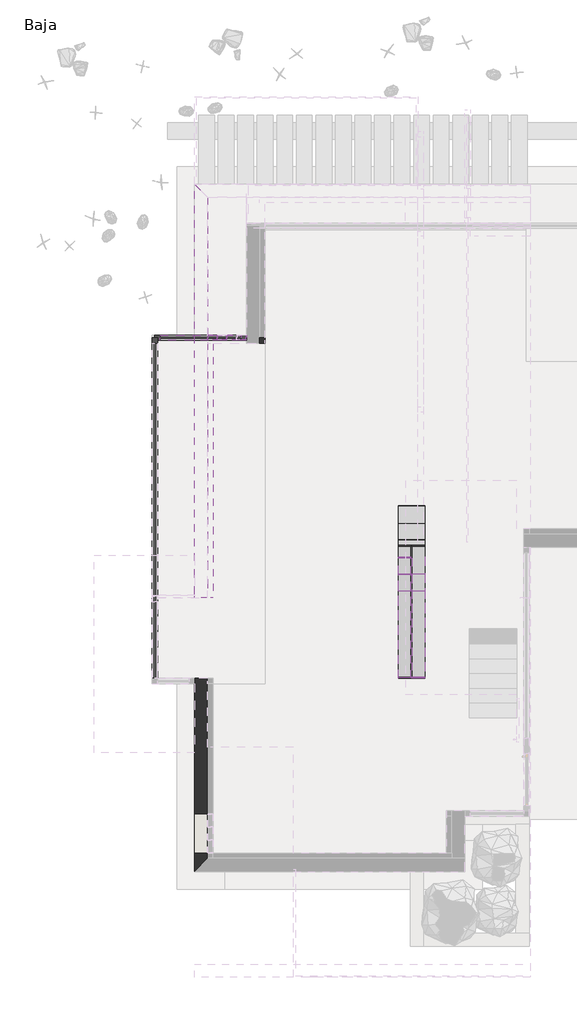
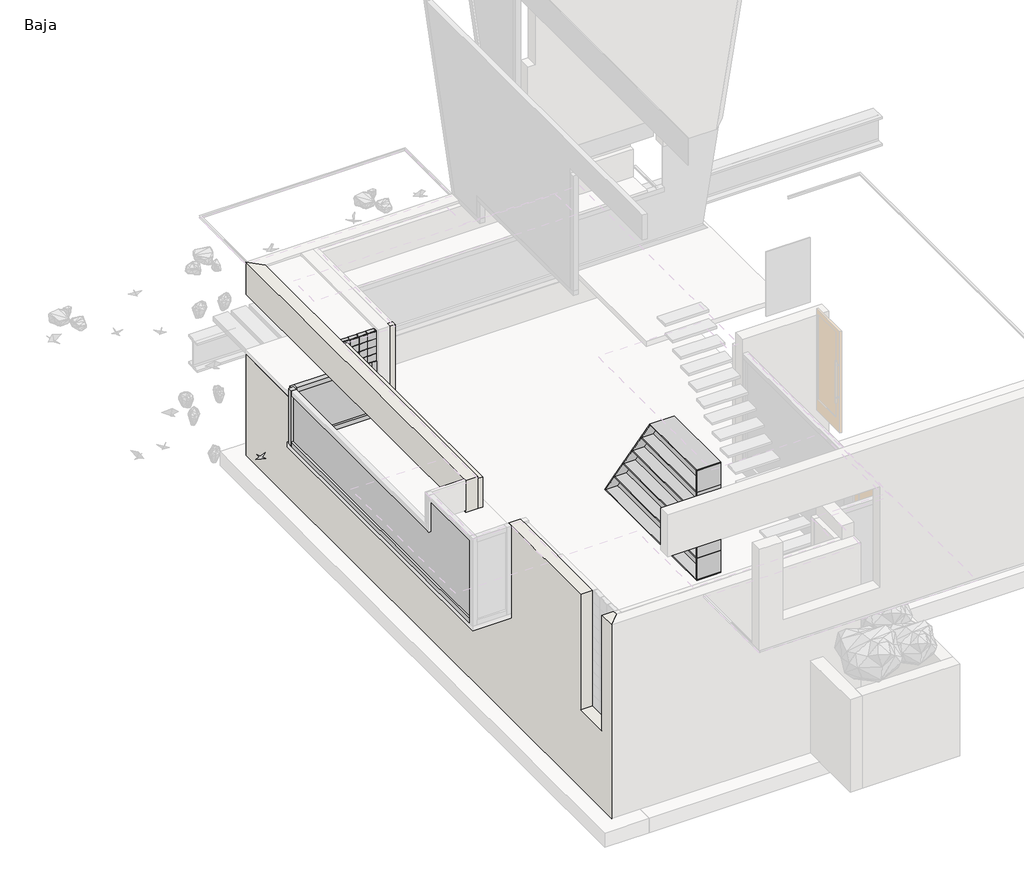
# One storey, part 2 of 7: 90 members, 23 plates, 4 walls.
"""IFC4 building model written with IfcOpenShell, lengths in millimetres."""

from ifc_helpers import new_model, si_unit, frame, origin, place, context, project, spatial, polyline, outline, extrude, faceted_brep, transform, mapped, element, save
from components import montante_rectangular_1abb0f4d, montante_rectangular_656bb1b0, montante_rectangular_f59f1d85, montante_rectangular_22364236, montante_rectangular_3d630c58, montante_rectangular_142802ca, montante_rectangular_cf6d9dcd, montante_rectangular_e4d02805, montante_rectangular_b110d746, montante_rectangular_e5db3b32, montante_rectangular_8bd0d971, montante_rectangular_43f281ba, montante_rectangular_47f0ccf8, montante_rectangular_ee07dd83, montante_rectangular_0c0e8d66, montante_rectangular_777e8895, montante_rectangular_4684fdaf, montante_rectangular_06d679b1, montante_rectangular_b5605255, montante_rectangular_2129d922, montante_rectangular_849fd185, montante_rectangular_d17c8d82, montante_rectangular_a98bdce8, montante_rectangular_35cfc2e4, montante_rectangular_3e73b5a5, montante_rectangular_cd6e0c02, montante_rectangular_montante_rectangular_10_x_10_cm_00349207, montante_rectangular_montante_rectangular_10_x_10_cm_79bb80e4, montante_rectangular_montante_rectangular_10_x_10_cm_fe9984d1, montante_rectangular_montante_rectangular_10_x_10_cm_3d635e15, montante_rectangular_montante_rectangular_10_x_10_cm_fdc269ba, panel_de_sistema_1168f021, panel_de_sistema_f3d9d39c, panel_de_sistema_20889c13, panel_de_sistema_fa78a8eb, panel_de_sistema_acristalado_9beb0c57, panel_de_sistema_acristalado_709cfd88, panel_de_sistema_acristalado_dcfe0e04, panel_de_sistema_acristalado_019df9a7, panel_de_sistema_acristalado_3d5bf477, panel_de_sistema_acristalado_1b2d553e, panel_de_sistema_acristalado_a5d02b9b

model = new_model("IFC4")

# Units and contexts
model_context = context("Model", 3, world=origin())
ifc_project = project(units=[si_unit("LENGTHUNIT", "METRE", prefix="MILLI")], contexts=[model_context])

# Site, building, storey
site = spatial("IfcSite", under=ifc_project)
building = spatial("IfcBuilding", under=site)
storey = spatial("IfcBuildingStorey", under=building, Name="Baja", Elevation=0.0)

# Members
placement = place(None, origin())
montante_rectangular_shape = montante_rectangular_1abb0f4d(model_context)
element("IfcMember", 1, ObjectType="Montante rectangular : Junta de paves", at=placement, inside=storey, context=model_context, shape_type="MappedRepresentation", body=[
    mapped(montante_rectangular_shape, transform((-3260.1061235, -293.1853621, 2650.0), x_axis=(0.0, 0.0, 1.0), y_axis=(0.0, -1.0, 0.0), z_axis=(1.0, 0.0, 0.0))),
])
element("IfcMember", 2, ObjectType="Montante rectangular : Junta de paves", at=placement, inside=storey, context=model_context, shape_type="MappedRepresentation", body=[
    mapped(montante_rectangular_shape, transform((-3803.3216659, -293.1853621, 2650.0), x_axis=(0.0, 0.0, 1.0), y_axis=(0.0, -1.0, 0.0), z_axis=(1.0, 0.0, 0.0))),
])
montante_rectangular_2_shape = montante_rectangular_656bb1b0(model_context)
element("IfcMember", 3, ObjectType="Montante rectangular : Junta de paves", at=placement, inside=storey, context=model_context, shape_type="MappedRepresentation", body=[
    mapped(montante_rectangular_2_shape, transform((-3620.5831518, -293.1853621, 2650.0), x_axis=(0.0, 0.0, 1.0), y_axis=(0.0, -1.0, 0.0), z_axis=(1.0, 0.0, 0.0))),
])
element("IfcMember", 4, ObjectType="Montante rectangular : Junta de paves", at=placement, inside=storey, context=model_context, shape_type="MappedRepresentation", body=[
    mapped(montante_rectangular_2_shape, transform((-3437.8446376, -293.1853621, 2650.0), x_axis=(0.0, 0.0, 1.0), y_axis=(0.0, -1.0, 0.0), z_axis=(1.0, 0.0, 0.0))),
])
montante_rectangular_3_shape = montante_rectangular_f59f1d85(model_context)
element("IfcMember", 5, ObjectType="Montante rectangular : Junta de paves", at=placement, inside=storey, context=model_context, shape_type="MappedRepresentation", body=[
    mapped(montante_rectangular_3_shape, transform((-3971.0601801, -293.1853621, 2000.0), x_axis=(0.0, 0.0, -1.0), y_axis=(0.0, -1.0, 0.0), z_axis=(-1.0, 0.0, 0.0))),
])
element("IfcMember", 6, ObjectType="Montante rectangular : Junta de paves", at=placement, inside=storey, context=model_context, shape_type="MappedRepresentation", body=[
    mapped(montante_rectangular_3_shape, transform((-3427.8446376, -293.1853621, 2000.0), x_axis=(0.0, 0.0, -1.0), y_axis=(0.0, -1.0, 0.0), z_axis=(-1.0, 0.0, 0.0))),
])
montante_rectangular_4_shape = montante_rectangular_22364236(model_context)
element("IfcMember", 7, ObjectType="Montante rectangular : Junta de paves", at=placement, inside=storey, context=model_context, shape_type="MappedRepresentation", body=[
    mapped(montante_rectangular_4_shape, transform((-3793.3216659, -293.1853621, 2000.0), x_axis=(0.0, 0.0, -1.0), y_axis=(0.0, -1.0, 0.0), z_axis=(-1.0, 0.0, 0.0))),
])
element("IfcMember", 8, ObjectType="Montante rectangular : Junta de paves", at=placement, inside=storey, context=model_context, shape_type="MappedRepresentation", body=[
    mapped(montante_rectangular_4_shape, transform((-3610.5831518, -293.1853621, 2000.0), x_axis=(0.0, 0.0, -1.0), y_axis=(0.0, -1.0, 0.0), z_axis=(-1.0, 0.0, 0.0))),
])
montante_rectangular_5_shape = montante_rectangular_3d630c58(model_context)
element("IfcMember", 9, ObjectType="Montante rectangular : Junta de paves", at=placement, inside=storey, context=model_context, shape_type="MappedRepresentation", body=[
    mapped(montante_rectangular_5_shape, transform((-3803.3216659, -293.1853621, 2162.5), x_axis=(0.0, 0.0, 1.0), y_axis=(0.0, -1.0, 0.0), z_axis=(1.0, 0.0, 0.0))),
])
element("IfcMember", 10, ObjectType="Montante rectangular : Junta de paves", at=placement, inside=storey, context=model_context, shape_type="MappedRepresentation", body=[
    mapped(montante_rectangular_5_shape, transform((-3260.1061235, -293.1853621, 2162.5), x_axis=(0.0, 0.0, 1.0), y_axis=(0.0, -1.0, 0.0), z_axis=(1.0, 0.0, 0.0))),
])
element("IfcMember", 11, ObjectType="Montante rectangular : Junta de paves", at=placement, inside=storey, context=model_context, shape_type="MappedRepresentation", body=[
    mapped(montante_rectangular_5_shape, transform((-3803.3216659, -293.1853621, 2325.0), x_axis=(0.0, 0.0, 1.0), y_axis=(0.0, -1.0, 0.0), z_axis=(1.0, 0.0, 0.0))),
])
element("IfcMember", 12, ObjectType="Montante rectangular : Junta de paves", at=placement, inside=storey, context=model_context, shape_type="MappedRepresentation", body=[
    mapped(montante_rectangular_5_shape, transform((-3260.1061235, -293.1853621, 2325.0), x_axis=(0.0, 0.0, 1.0), y_axis=(0.0, -1.0, 0.0), z_axis=(1.0, 0.0, 0.0))),
])
element("IfcMember", 13, ObjectType="Montante rectangular : Junta de paves", at=placement, inside=storey, context=model_context, shape_type="MappedRepresentation", body=[
    mapped(montante_rectangular_5_shape, transform((-3803.3216659, -293.1853621, 2487.5), x_axis=(0.0, 0.0, 1.0), y_axis=(0.0, -1.0, 0.0), z_axis=(1.0, 0.0, 0.0))),
])
element("IfcMember", 14, ObjectType="Montante rectangular : Junta de paves", at=placement, inside=storey, context=model_context, shape_type="MappedRepresentation", body=[
    mapped(montante_rectangular_5_shape, transform((-3260.1061235, -293.1853621, 2487.5), x_axis=(0.0, 0.0, 1.0), y_axis=(0.0, -1.0, 0.0), z_axis=(1.0, 0.0, 0.0))),
])
montante_rectangular_6_shape = montante_rectangular_142802ca(model_context)
element("IfcMember", 15, ObjectType="Montante rectangular : Junta de paves", at=placement, inside=storey, context=model_context, shape_type="MappedRepresentation", body=[
    mapped(montante_rectangular_6_shape, transform((-3620.5831518, -293.1853621, 2162.5), x_axis=(0.0, 0.0, 1.0), y_axis=(0.0, -1.0, 0.0), z_axis=(1.0, 0.0, 0.0))),
])
element("IfcMember", 16, ObjectType="Montante rectangular : Junta de paves", at=placement, inside=storey, context=model_context, shape_type="MappedRepresentation", body=[
    mapped(montante_rectangular_6_shape, transform((-3437.8446376, -293.1853621, 2162.5), x_axis=(0.0, 0.0, 1.0), y_axis=(0.0, -1.0, 0.0), z_axis=(1.0, 0.0, 0.0))),
])
element("IfcMember", 17, ObjectType="Montante rectangular : Junta de paves", at=placement, inside=storey, context=model_context, shape_type="MappedRepresentation", body=[
    mapped(montante_rectangular_6_shape, transform((-3620.5831518, -293.1853621, 2325.0), x_axis=(0.0, 0.0, 1.0), y_axis=(0.0, -1.0, 0.0), z_axis=(1.0, 0.0, 0.0))),
])
element("IfcMember", 18, ObjectType="Montante rectangular : Junta de paves", at=placement, inside=storey, context=model_context, shape_type="MappedRepresentation", body=[
    mapped(montante_rectangular_6_shape, transform((-3437.8446376, -293.1853621, 2325.0), x_axis=(0.0, 0.0, 1.0), y_axis=(0.0, -1.0, 0.0), z_axis=(1.0, 0.0, 0.0))),
])
element("IfcMember", 19, ObjectType="Montante rectangular : Junta de paves", at=placement, inside=storey, context=model_context, shape_type="MappedRepresentation", body=[
    mapped(montante_rectangular_6_shape, transform((-3620.5831518, -293.1853621, 2487.5), x_axis=(0.0, 0.0, 1.0), y_axis=(0.0, -1.0, 0.0), z_axis=(1.0, 0.0, 0.0))),
])
element("IfcMember", 20, ObjectType="Montante rectangular : Junta de paves", at=placement, inside=storey, context=model_context, shape_type="MappedRepresentation", body=[
    mapped(montante_rectangular_6_shape, transform((-3437.8446376, -293.1853621, 2487.5), x_axis=(0.0, 0.0, 1.0), y_axis=(0.0, -1.0, 0.0), z_axis=(1.0, 0.0, 0.0))),
])
montante_rectangular_7_shape = montante_rectangular_cf6d9dcd(model_context)
element("IfcMember", 21, ObjectType="Montante rectangular : Junta de paves", at=placement, inside=storey, context=model_context, shape_type="MappedRepresentation", body=[
    mapped(montante_rectangular_7_shape, transform((-3798.3216659, -293.1853621, 2000.0), x_axis=(1.0, 0.0, 0.0), y_axis=(0.0, -1.0, 0.0), z_axis=(0.0, 0.0, -1.0))),
])
element("IfcMember", 22, ObjectType="Montante rectangular : Junta de paves", at=placement, inside=storey, context=model_context, shape_type="MappedRepresentation", body=[
    mapped(montante_rectangular_7_shape, transform((-3615.5831518, -293.1853621, 2000.0), x_axis=(1.0, 0.0, 0.0), y_axis=(0.0, -1.0, 0.0), z_axis=(0.0, 0.0, -1.0))),
])
element("IfcMember", 23, ObjectType="Montante rectangular : Junta de paves", at=placement, inside=storey, context=model_context, shape_type="MappedRepresentation", body=[
    mapped(montante_rectangular_7_shape, transform((-3432.8446376, -293.1853621, 2000.0), x_axis=(1.0, 0.0, 0.0), y_axis=(0.0, -1.0, 0.0), z_axis=(0.0, 0.0, -1.0))),
])
element("IfcMember", 24, ObjectType="Montante rectangular : Junta de paves", at=placement, inside=storey, context=model_context, shape_type="MappedRepresentation", body=[
    mapped(montante_rectangular_7_shape, transform((-3798.3216659, -293.1853621, 2162.5), x_axis=(1.0, 0.0, 0.0), y_axis=(0.0, -1.0, 0.0), z_axis=(0.0, 0.0, -1.0))),
])
element("IfcMember", 25, ObjectType="Montante rectangular : Junta de paves", at=placement, inside=storey, context=model_context, shape_type="MappedRepresentation", body=[
    mapped(montante_rectangular_7_shape, transform((-3615.5831518, -293.1853621, 2162.5), x_axis=(1.0, 0.0, 0.0), y_axis=(0.0, -1.0, 0.0), z_axis=(0.0, 0.0, -1.0))),
])
element("IfcMember", 26, ObjectType="Montante rectangular : Junta de paves", at=placement, inside=storey, context=model_context, shape_type="MappedRepresentation", body=[
    mapped(montante_rectangular_7_shape, transform((-3432.8446376, -293.1853621, 2162.5), x_axis=(1.0, 0.0, 0.0), y_axis=(0.0, -1.0, 0.0), z_axis=(0.0, 0.0, -1.0))),
])
element("IfcMember", 27, ObjectType="Montante rectangular : Junta de paves", at=placement, inside=storey, context=model_context, shape_type="MappedRepresentation", body=[
    mapped(montante_rectangular_7_shape, transform((-3798.3216659, -293.1853621, 2325.0), x_axis=(1.0, 0.0, 0.0), y_axis=(0.0, -1.0, 0.0), z_axis=(0.0, 0.0, -1.0))),
])
element("IfcMember", 28, ObjectType="Montante rectangular : Junta de paves", at=placement, inside=storey, context=model_context, shape_type="MappedRepresentation", body=[
    mapped(montante_rectangular_7_shape, transform((-3615.5831518, -293.1853621, 2325.0), x_axis=(1.0, 0.0, 0.0), y_axis=(0.0, -1.0, 0.0), z_axis=(0.0, 0.0, -1.0))),
])
element("IfcMember", 29, ObjectType="Montante rectangular : Junta de paves", at=placement, inside=storey, context=model_context, shape_type="MappedRepresentation", body=[
    mapped(montante_rectangular_7_shape, transform((-3432.8446376, -293.1853621, 2325.0), x_axis=(1.0, 0.0, 0.0), y_axis=(0.0, -1.0, 0.0), z_axis=(0.0, 0.0, -1.0))),
])
element("IfcMember", 30, ObjectType="Montante rectangular : Junta de paves", at=placement, inside=storey, context=model_context, shape_type="MappedRepresentation", body=[
    mapped(montante_rectangular_7_shape, transform((-3798.3216659, -293.1853621, 2487.5), x_axis=(1.0, 0.0, 0.0), y_axis=(0.0, -1.0, 0.0), z_axis=(0.0, 0.0, -1.0))),
])
element("IfcMember", 31, ObjectType="Montante rectangular : Junta de paves", at=placement, inside=storey, context=model_context, shape_type="MappedRepresentation", body=[
    mapped(montante_rectangular_7_shape, transform((-3615.5831518, -293.1853621, 2487.5), x_axis=(1.0, 0.0, 0.0), y_axis=(0.0, -1.0, 0.0), z_axis=(0.0, 0.0, -1.0))),
])
montante_rectangular_8_shape = montante_rectangular_e4d02805(model_context)
element("IfcMember", 32, ObjectType="Montante rectangular : Junta de paves", at=placement, inside=storey, context=model_context, shape_type="MappedRepresentation", body=[
    mapped(montante_rectangular_8_shape, transform((-3250.1061235, -293.1853621, 2000.0), x_axis=(1.0, 0.0, 0.0), y_axis=(0.0, -1.0, 0.0), z_axis=(0.0, 0.0, -1.0))),
])
element("IfcMember", 33, ObjectType="Montante rectangular : Junta de paves", at=placement, inside=storey, context=model_context, shape_type="MappedRepresentation", body=[
    mapped(montante_rectangular_8_shape, transform((-3250.1061235, -293.1853621, 2162.5), x_axis=(1.0, 0.0, 0.0), y_axis=(0.0, -1.0, 0.0), z_axis=(0.0, 0.0, -1.0))),
])
element("IfcMember", 34, ObjectType="Montante rectangular : Junta de paves", at=placement, inside=storey, context=model_context, shape_type="MappedRepresentation", body=[
    mapped(montante_rectangular_8_shape, transform((-3250.1061235, -293.1853621, 2325.0), x_axis=(1.0, 0.0, 0.0), y_axis=(0.0, -1.0, 0.0), z_axis=(0.0, 0.0, -1.0))),
])
element("IfcMember", 35, ObjectType="Montante rectangular : Junta de paves", at=placement, inside=storey, context=model_context, shape_type="MappedRepresentation", body=[
    mapped(montante_rectangular_8_shape, transform((-3250.1061235, -293.1853621, 2487.5), x_axis=(1.0, 0.0, 0.0), y_axis=(0.0, -1.0, 0.0), z_axis=(0.0, 0.0, -1.0))),
])
montante_rectangular_9_shape = montante_rectangular_b110d746(model_context)
element("IfcMember", 36, ObjectType="Montante rectangular : Junta de paves", at=placement, inside=storey, context=model_context, shape_type="MappedRepresentation", body=[
    mapped(montante_rectangular_9_shape, transform((-3981.0601801, -293.1853621, 2650.0), x_axis=(-1.0, 0.0, 0.0), y_axis=(0.0, -1.0, 0.0), z_axis=(0.0, 0.0, 1.0))),
])
element("IfcMember", 37, ObjectType="Montante rectangular : Junta de paves", at=placement, inside=storey, context=model_context, shape_type="MappedRepresentation", body=[
    mapped(montante_rectangular_9_shape, transform((-3981.0601801, -293.1853621, 2162.5), x_axis=(-1.0, 0.0, 0.0), y_axis=(0.0, -1.0, 0.0), z_axis=(0.0, 0.0, 1.0))),
])
element("IfcMember", 38, ObjectType="Montante rectangular : Junta de paves", at=placement, inside=storey, context=model_context, shape_type="MappedRepresentation", body=[
    mapped(montante_rectangular_9_shape, transform((-3981.0601801, -293.1853621, 2325.0), x_axis=(-1.0, 0.0, 0.0), y_axis=(0.0, -1.0, 0.0), z_axis=(0.0, 0.0, 1.0))),
])
element("IfcMember", 39, ObjectType="Montante rectangular : Junta de paves", at=placement, inside=storey, context=model_context, shape_type="MappedRepresentation", body=[
    mapped(montante_rectangular_9_shape, transform((-3981.0601801, -293.1853621, 2487.5), x_axis=(-1.0, 0.0, 0.0), y_axis=(0.0, -1.0, 0.0), z_axis=(0.0, 0.0, 1.0))),
])
montante_rectangular_10_shape = montante_rectangular_e5db3b32(model_context)
element("IfcMember", 40, ObjectType="Montante rectangular : CIRCLES", at=placement, inside=storey, context=model_context, shape_type="MappedRepresentation", body=[
    mapped(montante_rectangular_10_shape, transform((-125.8601801, -3800.54577, 586.0), x_axis=(0.0, 0.8309071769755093, 0.5564110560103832), y_axis=(1.0, 0.0, 0.0), z_axis=(0.0, 0.5564110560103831, -0.8309071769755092))),
])
element("IfcMember", 41, ObjectType="Montante rectangular : CIRCLES", at=placement, inside=storey, context=model_context, shape_type="MappedRepresentation", body=[
    mapped(montante_rectangular_10_shape, transform((-125.8601801, -4119.29577, 1062.0), x_axis=(0.0, 0.830907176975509, 0.5564110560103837), y_axis=(1.0, 0.0, 0.0), z_axis=(0.0, 0.5564110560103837, -0.830907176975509))),
])
element("IfcMember", 42, ObjectType="Montante rectangular : CIRCLES", at=placement, inside=storey, context=model_context, shape_type="MappedRepresentation", body=[
    mapped(montante_rectangular_10_shape, transform((-125.8601801, -4438.04577, 1538.0), x_axis=(0.0, 0.8309071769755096, 0.5564110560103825), y_axis=(1.0, 0.0, 0.0), z_axis=(0.0, 0.5564110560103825, -0.8309071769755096))),
])
montante_rectangular_11_shape = montante_rectangular_8bd0d971(model_context)
element("IfcMember", 43, ObjectType="Montante rectangular : CIRCLES", at=placement, inside=storey, context=model_context, shape_type="MappedRepresentation", body=[
    mapped(montante_rectangular_11_shape, transform((-125.8601801, -6738.9241022, 2480.0), x_axis=(0.0, -1.0, 0.0), y_axis=(1.0, 0.0, 0.0), z_axis=(0.0, 0.0, 1.0))),
])
element("IfcMember", 44, ObjectType="Montante rectangular : CIRCLES", at=placement, inside=storey, context=model_context, shape_type="MappedRepresentation", body=[
    mapped(montante_rectangular_11_shape, transform((-125.8601801, -6738.9241022, 586.0), x_axis=(0.0, -1.0, 0.0), y_axis=(1.0, 0.0, 0.0), z_axis=(0.0, 0.0, 1.0))),
])
montante_rectangular_12_shape = montante_rectangular_43f281ba(model_context)
element("IfcMember", 45, ObjectType="Montante rectangular : CIRCLES", at=placement, inside=storey, context=model_context, shape_type="MappedRepresentation", body=[
    mapped(montante_rectangular_12_shape, transform((-125.8601801, -6738.9241022, 1062.0), x_axis=(0.0, -1.0, 0.0), y_axis=(1.0, 0.0, 0.0), z_axis=(0.0, 0.0, 1.0))),
])
element("IfcMember", 46, ObjectType="Montante rectangular : CIRCLES", at=placement, inside=storey, context=model_context, shape_type="MappedRepresentation", body=[
    mapped(montante_rectangular_12_shape, transform((-125.8601801, -6738.9241022, 1538.0), x_axis=(0.0, -1.0, 0.0), y_axis=(1.0, 0.0, 0.0), z_axis=(0.0, 0.0, 1.0))),
])
element("IfcMember", 47, ObjectType="Montante rectangular : CIRCLES", at=placement, inside=storey, context=model_context, shape_type="MappedRepresentation", body=[
    mapped(montante_rectangular_12_shape, transform((-125.8601801, -6738.9241022, 2014.0), x_axis=(0.0, -1.0, 0.0), y_axis=(1.0, 0.0, 0.0), z_axis=(0.0, 0.0, 1.0))),
])
montante_rectangular_13_shape = montante_rectangular_47f0ccf8(model_context)
element("IfcMember", 48, ObjectType="Montante rectangular : CIRCLES", at=placement, inside=storey, context=model_context, shape_type="MappedRepresentation", body=[
    mapped(montante_rectangular_13_shape, transform((-125.8601801, -5082.2421985, 2500.0), x_axis=(0.0, 0.0, 1.0), y_axis=(1.0, 0.0, 0.0), z_axis=(0.0, 1.0, 0.0))),
])
montante_rectangular_14_shape = montante_rectangular_ee07dd83(model_context)
element("IfcMember", 49, ObjectType="Montante rectangular : CIRCLES", at=placement, inside=storey, context=model_context, shape_type="MappedRepresentation", body=[
    mapped(montante_rectangular_14_shape, transform((-125.8601801, -6738.9241022, 100.0), x_axis=(0.0, 0.0, -1.0), y_axis=(1.0, 0.0, 0.0), z_axis=(0.0, -1.0, 0.0))),
])
montante_rectangular_15_shape = montante_rectangular_0c0e8d66(model_context)
element("IfcMember", 50, ObjectType="Montante rectangular : CIRCLES", at=placement, inside=storey, context=model_context, shape_type="MappedRepresentation", body=[
    mapped(montante_rectangular_15_shape, transform((-125.8601801, -3475.0993414, 100.0), x_axis=(0.0, 0.8309071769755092, 0.5564110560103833), y_axis=(1.0, 0.0, 0.0), z_axis=(0.0, 0.5564110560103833, -0.8309071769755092))),
])
montante_rectangular_16_shape = montante_rectangular_777e8895(model_context)
element("IfcMember", 51, ObjectType="Montante rectangular : CIRCLES", at=placement, inside=storey, context=model_context, shape_type="MappedRepresentation", body=[
    mapped(montante_rectangular_16_shape, transform((-125.8601801, -4756.79577, 2014.0), x_axis=(0.0, 0.8309071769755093, 0.5564110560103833), y_axis=(1.0, 0.0, 0.0), z_axis=(0.0, 0.5564110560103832, -0.8309071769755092))),
])
montante_rectangular_17_shape = montante_rectangular_4684fdaf(model_context)
element("IfcMember", 52, ObjectType="Montante rectangular : CIRCLES", at=placement, inside=storey, context=model_context, shape_type="MappedRepresentation", body=[
    mapped(montante_rectangular_17_shape, transform((-125.8601801, -3800.54577, 586.0), x_axis=(0.0, 0.0, 1.0), y_axis=(1.0, 0.0, 0.0), z_axis=(0.0, 1.0, 0.0))),
])
montante_rectangular_18_shape = montante_rectangular_06d679b1(model_context)
element("IfcMember", 53, ObjectType="Montante rectangular : CIRCLES", at=placement, inside=storey, context=model_context, shape_type="MappedRepresentation", body=[
    mapped(montante_rectangular_18_shape, transform((-125.8601801, -4119.29577, 1062.0), x_axis=(0.0, 0.0, 1.0), y_axis=(1.0, 0.0, 0.0), z_axis=(0.0, 1.0, 0.0))),
])
montante_rectangular_19_shape = montante_rectangular_b5605255(model_context)
element("IfcMember", 54, ObjectType="Montante rectangular : CIRCLES", at=placement, inside=storey, context=model_context, shape_type="MappedRepresentation", body=[
    mapped(montante_rectangular_19_shape, transform((-125.8601801, -4438.04577, 1538.0), x_axis=(0.0, 0.0, 1.0), y_axis=(1.0, 0.0, 0.0), z_axis=(0.0, 1.0, 0.0))),
])
montante_rectangular_20_shape = montante_rectangular_2129d922(model_context)
element("IfcMember", 55, ObjectType="Montante rectangular : CIRCLES", at=placement, inside=storey, context=model_context, shape_type="MappedRepresentation", body=[
    mapped(montante_rectangular_20_shape, transform((-125.8601801, -4756.79577, 2014.0), x_axis=(0.0, 0.0, 1.0), y_axis=(1.0, 0.0, 0.0), z_axis=(0.0, 1.0, 0.0))),
])
montante_rectangular_21_shape = montante_rectangular_849fd185(model_context)
element("IfcMember", 56, ObjectType="Montante rectangular : CIRCLES 2", at=placement, inside=storey, context=model_context, shape_type="MappedRepresentation", body=[
    mapped(montante_rectangular_21_shape, transform((-3631.0601801, -6128.9241022, 700.0), x_axis=(0.0, 0.0, 1.0), y_axis=(1.0, 0.0, 0.0), z_axis=(0.0, 1.0, 0.0))),
])
montante_rectangular_22_shape = montante_rectangular_d17c8d82(model_context)
element("IfcMember", 57, ObjectType="Montante rectangular : CIRCLES 2", at=placement, inside=storey, context=model_context, shape_type="MappedRepresentation", body=[
    mapped(montante_rectangular_22_shape, transform((-3631.0601801, -5528.9241022, 700.0), x_axis=(0.0, 0.0, 1.0), y_axis=(1.0, 0.0, 0.0), z_axis=(0.0, 1.0, 0.0))),
])
element("IfcMember", 58, ObjectType="Montante rectangular : CIRCLES 2", at=placement, inside=storey, context=model_context, shape_type="MappedRepresentation", body=[
    mapped(montante_rectangular_22_shape, transform((-3631.0601801, -4928.9241022, 700.0), x_axis=(0.0, 0.0, 1.0), y_axis=(1.0, 0.0, 0.0), z_axis=(0.0, 1.0, 0.0))),
])
element("IfcMember", 59, ObjectType="Montante rectangular : CIRCLES 2", at=placement, inside=storey, context=model_context, shape_type="MappedRepresentation", body=[
    mapped(montante_rectangular_22_shape, transform((-3631.0601801, -4328.9241022, 700.0), x_axis=(0.0, 0.0, 1.0), y_axis=(1.0, 0.0, 0.0), z_axis=(0.0, 1.0, 0.0))),
])
element("IfcMember", 60, ObjectType="Montante rectangular : CIRCLES 2", at=placement, inside=storey, context=model_context, shape_type="MappedRepresentation", body=[
    mapped(montante_rectangular_22_shape, transform((-3631.0601801, -3728.9241022, 700.0), x_axis=(0.0, 0.0, 1.0), y_axis=(1.0, 0.0, 0.0), z_axis=(0.0, 1.0, 0.0))),
])
element("IfcMember", 61, ObjectType="Montante rectangular : CIRCLES 2", at=placement, inside=storey, context=model_context, shape_type="MappedRepresentation", body=[
    mapped(montante_rectangular_22_shape, transform((-3631.0601801, -3128.9241022, 700.0), x_axis=(0.0, 0.0, 1.0), y_axis=(1.0, 0.0, 0.0), z_axis=(0.0, 1.0, 0.0))),
])
element("IfcMember", 62, ObjectType="Montante rectangular : CIRCLES 2", at=placement, inside=storey, context=model_context, shape_type="MappedRepresentation", body=[
    mapped(montante_rectangular_22_shape, transform((-3631.0601801, -2528.9241022, 700.0), x_axis=(0.0, 0.0, 1.0), y_axis=(1.0, 0.0, 0.0), z_axis=(0.0, 1.0, 0.0))),
])
element("IfcMember", 63, ObjectType="Montante rectangular : CIRCLES 2", at=placement, inside=storey, context=model_context, shape_type="MappedRepresentation", body=[
    mapped(montante_rectangular_22_shape, transform((-3631.0601801, -1928.9241022, 700.0), x_axis=(0.0, 0.0, 1.0), y_axis=(1.0, 0.0, 0.0), z_axis=(0.0, 1.0, 0.0))),
])
element("IfcMember", 64, ObjectType="Montante rectangular : CIRCLES 2", at=placement, inside=storey, context=model_context, shape_type="MappedRepresentation", body=[
    mapped(montante_rectangular_22_shape, transform((-3631.0601801, -1328.9241022, 700.0), x_axis=(0.0, 0.0, 1.0), y_axis=(1.0, 0.0, 0.0), z_axis=(0.0, 1.0, 0.0))),
])
montante_rectangular_23_shape = montante_rectangular_a98bdce8(model_context)
element("IfcMember", 65, ObjectType="Montante rectangular : CIRCLES 2", at=placement, inside=storey, context=model_context, shape_type="MappedRepresentation", body=[
    mapped(montante_rectangular_23_shape, transform((-3631.0601801, -6738.9241022, 100.0), x_axis=(0.0, 0.0, -1.0), y_axis=(1.0, 0.0, 0.0), z_axis=(0.0, -1.0, 0.0))),
])
montante_rectangular_24_shape = montante_rectangular_35cfc2e4(model_context)
element("IfcMember", 66, ObjectType="Montante rectangular : CIRCLES 2", at=placement, inside=storey, context=model_context, shape_type="MappedRepresentation", body=[
    mapped(montante_rectangular_24_shape, transform((-3631.0601801, -6128.9241022, 100.0), x_axis=(0.0, 0.0, -1.0), y_axis=(1.0, 0.0, 0.0), z_axis=(0.0, -1.0, 0.0))),
])
element("IfcMember", 67, ObjectType="Montante rectangular : CIRCLES 2", at=placement, inside=storey, context=model_context, shape_type="MappedRepresentation", body=[
    mapped(montante_rectangular_24_shape, transform((-3631.0601801, -5528.9241022, 100.0), x_axis=(0.0, 0.0, -1.0), y_axis=(1.0, 0.0, 0.0), z_axis=(0.0, -1.0, 0.0))),
])
element("IfcMember", 68, ObjectType="Montante rectangular : CIRCLES 2", at=placement, inside=storey, context=model_context, shape_type="MappedRepresentation", body=[
    mapped(montante_rectangular_24_shape, transform((-3631.0601801, -4928.9241022, 100.0), x_axis=(0.0, 0.0, -1.0), y_axis=(1.0, 0.0, 0.0), z_axis=(0.0, -1.0, 0.0))),
])
element("IfcMember", 69, ObjectType="Montante rectangular : CIRCLES 2", at=placement, inside=storey, context=model_context, shape_type="MappedRepresentation", body=[
    mapped(montante_rectangular_24_shape, transform((-3631.0601801, -4328.9241022, 100.0), x_axis=(0.0, 0.0, -1.0), y_axis=(1.0, 0.0, 0.0), z_axis=(0.0, -1.0, 0.0))),
])
element("IfcMember", 70, ObjectType="Montante rectangular : CIRCLES 2", at=placement, inside=storey, context=model_context, shape_type="MappedRepresentation", body=[
    mapped(montante_rectangular_24_shape, transform((-3631.0601801, -3728.9241022, 100.0), x_axis=(0.0, 0.0, -1.0), y_axis=(1.0, 0.0, 0.0), z_axis=(0.0, -1.0, 0.0))),
])
element("IfcMember", 71, ObjectType="Montante rectangular : CIRCLES 2", at=placement, inside=storey, context=model_context, shape_type="MappedRepresentation", body=[
    mapped(montante_rectangular_24_shape, transform((-3631.0601801, -3128.9241022, 100.0), x_axis=(0.0, 0.0, -1.0), y_axis=(1.0, 0.0, 0.0), z_axis=(0.0, -1.0, 0.0))),
])
element("IfcMember", 72, ObjectType="Montante rectangular : CIRCLES 2", at=placement, inside=storey, context=model_context, shape_type="MappedRepresentation", body=[
    mapped(montante_rectangular_24_shape, transform((-3631.0601801, -2528.9241022, 100.0), x_axis=(0.0, 0.0, -1.0), y_axis=(1.0, 0.0, 0.0), z_axis=(0.0, -1.0, 0.0))),
])
element("IfcMember", 73, ObjectType="Montante rectangular : CIRCLES 2", at=placement, inside=storey, context=model_context, shape_type="MappedRepresentation", body=[
    mapped(montante_rectangular_24_shape, transform((-3631.0601801, -1928.9241022, 100.0), x_axis=(0.0, 0.0, -1.0), y_axis=(1.0, 0.0, 0.0), z_axis=(0.0, -1.0, 0.0))),
])
element("IfcMember", 74, ObjectType="Montante rectangular : CIRCLES 2", at=placement, inside=storey, context=model_context, shape_type="MappedRepresentation", body=[
    mapped(montante_rectangular_24_shape, transform((-3631.0601801, -1328.9241022, 100.0), x_axis=(0.0, 0.0, -1.0), y_axis=(1.0, 0.0, 0.0), z_axis=(0.0, -1.0, 0.0))),
])
montante_rectangular_25_shape = montante_rectangular_3e73b5a5(model_context)
element("IfcMember", 75, ObjectType="Montante rectangular : CIRCLES 2", at=placement, inside=storey, context=model_context, shape_type="MappedRepresentation", body=[
    mapped(montante_rectangular_25_shape, transform((-3631.0601801, -6128.9241022, 120.0), x_axis=(0.0, 1.0, 0.0), y_axis=(1.0, 0.0, 0.0), z_axis=(0.0, 0.0, -1.0))),
])
element("IfcMember", 76, ObjectType="Montante rectangular : CIRCLES 2", at=placement, inside=storey, context=model_context, shape_type="MappedRepresentation", body=[
    mapped(montante_rectangular_25_shape, transform((-3631.0601801, -5528.9241022, 120.0), x_axis=(0.0, 1.0, 0.0), y_axis=(1.0, 0.0, 0.0), z_axis=(0.0, 0.0, -1.0))),
])
element("IfcMember", 77, ObjectType="Montante rectangular : CIRCLES 2", at=placement, inside=storey, context=model_context, shape_type="MappedRepresentation", body=[
    mapped(montante_rectangular_25_shape, transform((-3631.0601801, -4928.9241022, 120.0), x_axis=(0.0, 1.0, 0.0), y_axis=(1.0, 0.0, 0.0), z_axis=(0.0, 0.0, -1.0))),
])
element("IfcMember", 78, ObjectType="Montante rectangular : CIRCLES 2", at=placement, inside=storey, context=model_context, shape_type="MappedRepresentation", body=[
    mapped(montante_rectangular_25_shape, transform((-3631.0601801, -4328.9241022, 120.0), x_axis=(0.0, 1.0, 0.0), y_axis=(1.0, 0.0, 0.0), z_axis=(0.0, 0.0, -1.0))),
])
element("IfcMember", 79, ObjectType="Montante rectangular : CIRCLES 2", at=placement, inside=storey, context=model_context, shape_type="MappedRepresentation", body=[
    mapped(montante_rectangular_25_shape, transform((-3631.0601801, -3728.9241022, 120.0), x_axis=(0.0, 1.0, 0.0), y_axis=(1.0, 0.0, 0.0), z_axis=(0.0, 0.0, -1.0))),
])
element("IfcMember", 80, ObjectType="Montante rectangular : CIRCLES 2", at=placement, inside=storey, context=model_context, shape_type="MappedRepresentation", body=[
    mapped(montante_rectangular_25_shape, transform((-3631.0601801, -3128.9241022, 120.0), x_axis=(0.0, 1.0, 0.0), y_axis=(1.0, 0.0, 0.0), z_axis=(0.0, 0.0, -1.0))),
])
element("IfcMember", 81, ObjectType="Montante rectangular : CIRCLES 2", at=placement, inside=storey, context=model_context, shape_type="MappedRepresentation", body=[
    mapped(montante_rectangular_25_shape, transform((-3631.0601801, -2528.9241022, 120.0), x_axis=(0.0, 1.0, 0.0), y_axis=(1.0, 0.0, 0.0), z_axis=(0.0, 0.0, -1.0))),
])
element("IfcMember", 82, ObjectType="Montante rectangular : CIRCLES 2", at=placement, inside=storey, context=model_context, shape_type="MappedRepresentation", body=[
    mapped(montante_rectangular_25_shape, transform((-3631.0601801, -1928.9241022, 120.0), x_axis=(0.0, 1.0, 0.0), y_axis=(1.0, 0.0, 0.0), z_axis=(0.0, 0.0, -1.0))),
])
element("IfcMember", 83, ObjectType="Montante rectangular : CIRCLES 2", at=placement, inside=storey, context=model_context, shape_type="MappedRepresentation", body=[
    mapped(montante_rectangular_25_shape, transform((-3631.0601801, -1328.9241022, 120.0), x_axis=(0.0, 1.0, 0.0), y_axis=(1.0, 0.0, 0.0), z_axis=(0.0, 0.0, -1.0))),
])
montante_rectangular_26_shape = montante_rectangular_cd6e0c02(model_context)
element("IfcMember", 84, ObjectType="Montante rectangular : CIRCLES 2", at=placement, inside=storey, context=model_context, shape_type="MappedRepresentation", body=[
    mapped(montante_rectangular_26_shape, transform((-3631.0601801, -6738.9241022, 680.0), x_axis=(0.0, -1.0, 0.0), y_axis=(1.0, 0.0, 0.0), z_axis=(0.0, 0.0, 1.0))),
])
montante_rectangular_montante_rectangular_10_x_10_cm_shape = montante_rectangular_montante_rectangular_10_x_10_cm_00349207(model_context)
element("IfcMember", 85, ObjectType="Montante rectangular : Montante rectangular - 10 x 10 cm", at=placement, inside=storey, context=model_context, shape_type="MappedRepresentation", body=[
    mapped(montante_rectangular_montante_rectangular_10_x_10_cm_shape, transform((-3350.1061235, -299.0350234, 800.0), x_axis=(0.0, 0.0, -1.0), y_axis=(0.0, 1.0, 0.0), z_axis=(1.0, 0.0, 0.0))),
])
montante_rectangular_montante_rectangular_10_x_10_cm_2_shape = montante_rectangular_montante_rectangular_10_x_10_cm_79bb80e4(model_context)
element("IfcMember", 86, ObjectType="Montante rectangular : Montante rectangular - 10 x 10 cm", at=placement, inside=storey, context=model_context, shape_type="MappedRepresentation", body=[
    mapped(montante_rectangular_montante_rectangular_10_x_10_cm_2_shape, transform((-4981.0601801, -399.0350234, 800.0), x_axis=(0.0, 0.0, -1.0), y_axis=(-1.0, 0.0, 0.0), z_axis=(0.0, 1.0, 0.0))),
])
montante_rectangular_montante_rectangular_10_x_10_cm_3_shape = montante_rectangular_montante_rectangular_10_x_10_cm_fe9984d1(model_context)
element("IfcMember", 87, ObjectType="Montante rectangular : Montante rectangular - 10 x 10 cm", at=placement, inside=storey, context=model_context, shape_type="MappedRepresentation", body=[
    mapped(montante_rectangular_montante_rectangular_10_x_10_cm_3_shape, transform((-4881.0601801, -299.0350234, 2000.0), x_axis=(0.0, 0.0, 1.0), y_axis=(0.0, 1.0, 0.0), z_axis=(-1.0, 0.0, 0.0))),
])
montante_rectangular_montante_rectangular_10_x_10_cm_4_shape = montante_rectangular_montante_rectangular_10_x_10_cm_3d635e15(model_context)
element("IfcMember", 88, ObjectType="Montante rectangular : Montante rectangular - 10 x 10 cm", at=placement, inside=storey, context=model_context, shape_type="MappedRepresentation", body=[
    mapped(montante_rectangular_montante_rectangular_10_x_10_cm_4_shape, transform((-4981.0601801, -299.0350234, 800.0), x_axis=(-1.0, 0.0, 0.0), y_axis=(0.0, 1.0, 0.0), z_axis=(0.0, 0.0, -1.0))),
])
montante_rectangular_montante_rectangular_10_x_10_cm_5_shape = montante_rectangular_montante_rectangular_10_x_10_cm_fdc269ba(model_context)
element("IfcMember", 89, ObjectType="Montante rectangular : Montante rectangular - 10 x 10 cm", at=placement, inside=storey, context=model_context, shape_type="MappedRepresentation", body=[
    mapped(montante_rectangular_montante_rectangular_10_x_10_cm_5_shape, transform((-4981.0601801, -299.0350234, 2000.0), x_axis=(0.0, 1.0, 0.0), y_axis=(-1.0, 0.0, 0.0), z_axis=(0.0, 0.0, 1.0))),
])
element("IfcMember", 90, ObjectType="Montante rectangular : Montante rectangular - 10 x 10 cm", at=placement, inside=storey, context=model_context, shape_type="MappedRepresentation", body=[
    mapped(montante_rectangular_montante_rectangular_10_x_10_cm_5_shape, transform((-3250.1061235, -299.0350234, 2000.0), x_axis=(1.0, 0.0, 0.0), y_axis=(0.0, 1.0, 0.0), z_axis=(0.0, 0.0, 1.0))),
])

# Plates
panel_de_sistema_shape = panel_de_sistema_1168f021(model_context)
element("IfcPlate", 91, ObjectType="Panel de sistema : PAVES", at=placement, inside=storey, context=model_context, shape_type="MappedRepresentation", body=[
    mapped(panel_de_sistema_shape, transform((-3887.190923, -293.1853621, 2010.0), x_axis=(1.0, 0.0, 0.0), y_axis=(0.0, 1.0, 0.0), z_axis=(0.0, 0.0, 1.0))),
])
element("IfcPlate", 92, ObjectType="Panel de sistema : PAVES", at=placement, inside=storey, context=model_context, shape_type="MappedRepresentation", body=[
    mapped(panel_de_sistema_shape, transform((-3343.9753806, -293.1853621, 2010.0), x_axis=(1.0, 0.0, 0.0), y_axis=(0.0, 1.0, 0.0), z_axis=(0.0, 0.0, 1.0))),
])
element("IfcPlate", 93, ObjectType="Panel de sistema : PAVES", at=placement, inside=storey, context=model_context, shape_type="MappedRepresentation", body=[
    mapped(panel_de_sistema_shape, transform((-3887.190923, -293.1853621, 2492.5), x_axis=(1.0, 0.0, 0.0), y_axis=(0.0, 1.0, 0.0), z_axis=(0.0, 0.0, 1.0))),
])
element("IfcPlate", 94, ObjectType="Panel de sistema : PAVES", at=placement, inside=storey, context=model_context, shape_type="MappedRepresentation", body=[
    mapped(panel_de_sistema_shape, transform((-3343.9753806, -293.1853621, 2492.5), x_axis=(1.0, 0.0, 0.0), y_axis=(0.0, 1.0, 0.0), z_axis=(0.0, 0.0, 1.0))),
])
panel_de_sistema_2_shape = panel_de_sistema_f3d9d39c(model_context)
element("IfcPlate", 95, ObjectType="Panel de sistema : PAVES", at=placement, inside=storey, context=model_context, shape_type="MappedRepresentation", body=[
    mapped(panel_de_sistema_2_shape, transform((-3706.9524089, -293.1853621, 2010.0), x_axis=(1.0, 0.0, 0.0), y_axis=(0.0, 1.0, 0.0), z_axis=(0.0, 0.0, 1.0))),
])
element("IfcPlate", 96, ObjectType="Panel de sistema : PAVES", at=placement, inside=storey, context=model_context, shape_type="MappedRepresentation", body=[
    mapped(panel_de_sistema_2_shape, transform((-3524.2138947, -293.1853621, 2010.0), x_axis=(1.0, 0.0, 0.0), y_axis=(0.0, 1.0, 0.0), z_axis=(0.0, 0.0, 1.0))),
])
element("IfcPlate", 97, ObjectType="Panel de sistema : PAVES", at=placement, inside=storey, context=model_context, shape_type="MappedRepresentation", body=[
    mapped(panel_de_sistema_2_shape, transform((-3706.9524089, -293.1853621, 2492.5), x_axis=(1.0, 0.0, 0.0), y_axis=(0.0, 1.0, 0.0), z_axis=(0.0, 0.0, 1.0))),
])
element("IfcPlate", 98, ObjectType="Panel de sistema : PAVES", at=placement, inside=storey, context=model_context, shape_type="MappedRepresentation", body=[
    mapped(panel_de_sistema_2_shape, transform((-3524.2138947, -293.1853621, 2492.5), x_axis=(1.0, 0.0, 0.0), y_axis=(0.0, 1.0, 0.0), z_axis=(0.0, 0.0, 1.0))),
])
panel_de_sistema_3_shape = panel_de_sistema_20889c13(model_context)
element("IfcPlate", 99, ObjectType="Panel de sistema : PAVES", at=placement, inside=storey, context=model_context, shape_type="MappedRepresentation", body=[
    mapped(panel_de_sistema_3_shape, transform((-3887.190923, -293.1853621, 2167.5), x_axis=(1.0, 0.0, 0.0), y_axis=(0.0, 1.0, 0.0), z_axis=(0.0, 0.0, 1.0))),
])
element("IfcPlate", 100, ObjectType="Panel de sistema : PAVES", at=placement, inside=storey, context=model_context, shape_type="MappedRepresentation", body=[
    mapped(panel_de_sistema_3_shape, transform((-3343.9753806, -293.1853621, 2167.5), x_axis=(1.0, 0.0, 0.0), y_axis=(0.0, 1.0, 0.0), z_axis=(0.0, 0.0, 1.0))),
])
element("IfcPlate", 101, ObjectType="Panel de sistema : PAVES", at=placement, inside=storey, context=model_context, shape_type="MappedRepresentation", body=[
    mapped(panel_de_sistema_3_shape, transform((-3887.190923, -293.1853621, 2330.0), x_axis=(1.0, 0.0, 0.0), y_axis=(0.0, 1.0, 0.0), z_axis=(0.0, 0.0, 1.0))),
])
element("IfcPlate", 102, ObjectType="Panel de sistema : PAVES", at=placement, inside=storey, context=model_context, shape_type="MappedRepresentation", body=[
    mapped(panel_de_sistema_3_shape, transform((-3343.9753806, -293.1853621, 2330.0), x_axis=(1.0, 0.0, 0.0), y_axis=(0.0, 1.0, 0.0), z_axis=(0.0, 0.0, 1.0))),
])
panel_de_sistema_4_shape = panel_de_sistema_fa78a8eb(model_context)
element("IfcPlate", 103, ObjectType="Panel de sistema : PAVES", at=placement, inside=storey, context=model_context, shape_type="MappedRepresentation", body=[
    mapped(panel_de_sistema_4_shape, transform((-3706.9524089, -293.1853621, 2167.5), x_axis=(1.0, 0.0, 0.0), y_axis=(0.0, 1.0, 0.0), z_axis=(0.0, 0.0, 1.0))),
])
element("IfcPlate", 104, ObjectType="Panel de sistema : PAVES", at=placement, inside=storey, context=model_context, shape_type="MappedRepresentation", body=[
    mapped(panel_de_sistema_4_shape, transform((-3524.2138947, -293.1853621, 2167.5), x_axis=(1.0, 0.0, 0.0), y_axis=(0.0, 1.0, 0.0), z_axis=(0.0, 0.0, 1.0))),
])
element("IfcPlate", 105, ObjectType="Panel de sistema : PAVES", at=placement, inside=storey, context=model_context, shape_type="MappedRepresentation", body=[
    mapped(panel_de_sistema_4_shape, transform((-3706.9524089, -293.1853621, 2330.0), x_axis=(1.0, 0.0, 0.0), y_axis=(0.0, 1.0, 0.0), z_axis=(0.0, 0.0, 1.0))),
])
element("IfcPlate", 106, ObjectType="Panel de sistema : PAVES", at=placement, inside=storey, context=model_context, shape_type="MappedRepresentation", body=[
    mapped(panel_de_sistema_4_shape, transform((-3524.2138947, -293.1853621, 2330.0), x_axis=(1.0, 0.0, 0.0), y_axis=(0.0, 1.0, 0.0), z_axis=(0.0, 0.0, 1.0))),
])
panel_de_sistema_acristalado_shape = panel_de_sistema_acristalado_9beb0c57(model_context)
element("IfcPlate", 107, ObjectType="Panel de sistema : Acristalado", at=placement, inside=storey, context=model_context, shape_type="MappedRepresentation", body=[
    mapped(panel_de_sistema_acristalado_shape, transform((-4981.0601801, -3568.9795628, 900.0), x_axis=(0.0, -1.0, 0.0), y_axis=(1.0, 0.0, 0.0), z_axis=(0.0, 0.0, 1.0))),
])
panel_de_sistema_acristalado_2_shape = panel_de_sistema_acristalado_709cfd88(model_context)
element("IfcPlate", 108, ObjectType="Panel de sistema : Acristalado", at=placement, inside=storey, context=model_context, shape_type="MappedRepresentation", body=[
    mapped(panel_de_sistema_acristalado_2_shape, transform((-4115.5831518, -299.0350234, 900.0), x_axis=(-1.0, 0.0, 0.0), y_axis=(0.0, -1.0, 0.0), z_axis=(0.0, 0.0, 1.0))),
])
panel_de_sistema_acristalado_3_shape = panel_de_sistema_acristalado_dcfe0e04(model_context)
element("IfcPlate", 109, ObjectType="Panel de sistema : Acristalado", at=placement, inside=storey, context=model_context, shape_type="MappedRepresentation", body=[
    mapped(panel_de_sistema_acristalado_3_shape, transform((-125.8601801, -5115.743189, 120.0), x_axis=(0.0, 1.0, 0.0), y_axis=(-1.0, 0.0, 0.0), z_axis=(0.0, 0.0, 1.0))),
])
panel_de_sistema_acristalado_4_shape = panel_de_sistema_acristalado_019df9a7(model_context)
element("IfcPlate", 110, ObjectType="Panel de sistema : Acristalado", at=placement, inside=storey, context=model_context, shape_type="MappedRepresentation", body=[
    mapped(panel_de_sistema_acristalado_4_shape, transform((-125.8601801, -5275.118189, 596.0), x_axis=(0.0, 1.0, 0.0), y_axis=(-1.0, 0.0, 0.0), z_axis=(0.0, 0.0, 1.0))),
])
panel_de_sistema_acristalado_5_shape = panel_de_sistema_acristalado_3d5bf477(model_context)
element("IfcPlate", 111, ObjectType="Panel de sistema : Acristalado", at=placement, inside=storey, context=model_context, shape_type="MappedRepresentation", body=[
    mapped(panel_de_sistema_acristalado_5_shape, transform((-125.8601801, -5434.493189, 1072.0), x_axis=(0.0, 1.0, 0.0), y_axis=(-1.0, 0.0, 0.0), z_axis=(0.0, 0.0, 1.0))),
])
panel_de_sistema_acristalado_6_shape = panel_de_sistema_acristalado_1b2d553e(model_context)
element("IfcPlate", 112, ObjectType="Panel de sistema : Acristalado", at=placement, inside=storey, context=model_context, shape_type="MappedRepresentation", body=[
    mapped(panel_de_sistema_acristalado_6_shape, transform((-125.8601801, -5593.868189, 1548.0), x_axis=(0.0, 1.0, 0.0), y_axis=(-1.0, 0.0, 0.0), z_axis=(0.0, 0.0, 1.0))),
])
panel_de_sistema_acristalado_7_shape = panel_de_sistema_acristalado_a5d02b9b(model_context)
element("IfcPlate", 113, ObjectType="Panel de sistema : Acristalado", at=placement, inside=storey, context=model_context, shape_type="MappedRepresentation", body=[
    mapped(panel_de_sistema_acristalado_7_shape, transform((-125.8601801, -5753.243189, 2024.0), x_axis=(0.0, 1.0, 0.0), y_axis=(-1.0, 0.0, 0.0), z_axis=(0.0, 0.0, 1.0))),
])

# Walls
element("IfcWall", 114, ObjectType="Hormigón - 25 cm", at=placement, inside=storey, context=model_context, shape_type="Brep", body=[
    faceted_brep([(-4231.0601801, 2607.3330963, -1500.0), (-4231.0601801, -10392.6669037, -1500.0), (-4231.0601801, -10392.6669037, 2700.0), (-4231.0601801, -10047.6669037, 2700.0), (-4231.0601801, -10047.6669037, 200.0), (-4231.0601801, -9297.6669037, 200.0), (-4231.0601801, -9297.6669037, 2700.0), (-4231.0601801, -6738.9241022, 2700.0), (-4231.0601801, -6738.9241022, 700.0), (-4231.0601801, 2607.3330963, 700.0), (-3981.0601801, -10142.6669037, -1500.0), (-3981.0601801, 2357.3330963, -1500.0), (-3981.0601801, 2357.3330963, 700.0), (-3981.0601801, -149.0350234, 700.0), (-3981.0601801, -399.0350234, 700.0), (-3981.0601801, -6738.9241022, 700.0), (-3981.0601801, -6738.9241022, 800.0), (-3981.0601801, -6738.9241022, 2700.0), (-3981.0601801, -6838.9241022, 2700.0), (-3981.0601801, -8042.6669037, 2700.0), (-3981.0601801, -9297.6669037, 2700.0), (-3981.0601801, -9297.6669037, 200.0), (-3981.0601801, -10047.6669037, 200.0), (-3981.0601801, -10047.6669037, 2700.0), (-3981.0601801, -10142.6669037, 2700.0)], [[[0, 1, 2, 3, 4, 5, 6, 7, 8, 9]], [[10, 11, 12, 13, 14, 15, 16, 17, 18, 19, 20, 21, 22, 23, 24]], [[2, 1, 10, 24]], [[1, 0, 11, 10]], [[2, 24, 23, 3]], [[17, 7, 6, 20, 19, 18]], [[9, 8, 15, 14, 13, 12]], [[11, 0, 9, 12]], [[22, 4, 3, 23]], [[5, 21, 20, 6]], [[4, 22, 21, 5]], [[8, 7, 17, 16, 15]]]),
])
element("IfcWall", 115, ObjectType="Hormigón - 25 cm", at=placement, inside=storey, context=model_context, shape_type="Brep", body=[
    faceted_brep([(-4231.0601801, -5212.6669037, 2700.0), (-4231.0601801, -5162.6669037, 2700.0), (-4231.0601801, -4512.6669037, 2700.0), (-4231.0601801, 2607.3330963, 2700.0), (-4231.0601801, 2607.3330963, 2000.0), (-4231.0601801, -5212.6669037, 2000.0), (-4231.0601801, -5212.6669037, 2050.0), (-3981.0601801, -5212.6669037, 2700.0), (-3981.0601801, -5212.6669037, 2000.0), (-3981.0601801, 2357.3330963, 2000.0), (-3981.0601801, 2357.3330963, 2700.0), (-3981.0601801, -4512.6669037, 2700.0)], [[[0, 1, 2, 3, 4, 5, 6]], [[7, 8, 9, 10, 11]], [[3, 2, 1, 0, 7, 11, 10]], [[5, 4, 9, 8]], [[4, 3, 10, 9]], [[0, 6, 5, 8, 7]]]),
])
element("IfcWall", 116, ObjectType="Trasdosado de placa de yeso laminando", at=placement, inside=storey, context=model_context, shape_type="SweptSolid", body=[
    extrude(outline(polyline([(-2900.1061235, -399.0350234), (-3000.1061235, -399.0350234), (-3000.1061235, -299.0350234), (-2900.1061235, -299.0350234), (-2900.1061235, -399.0350234)])), frame((0.0, 0.0, 800.0), z_axis=(0.0, 0.0, 1.0), x_axis=(1.0, 0.0, 0.0)), (0.0, 0.0, 1.0), 1900.0),
])
element("IfcWall", 117, ObjectType="Trasdosado de placa de yeso laminando", at=placement, inside=storey, context=model_context, shape_type="SweptSolid", body=[
    extrude(outline(polyline([(-3881.0601801, -399.0350234), (-3881.0601801, -5212.6669037), (-3981.0601801, -5212.6669037), (-3981.0601801, -399.0350234), (-3881.0601801, -399.0350234)])), frame((0.0, 0.0, 2000.0), z_axis=(0.0, 0.0, 1.0), x_axis=(1.0, 0.0, 0.0)), (0.0, 0.0, 1.0), 650.0),
])

save(model, "model.ifc")
